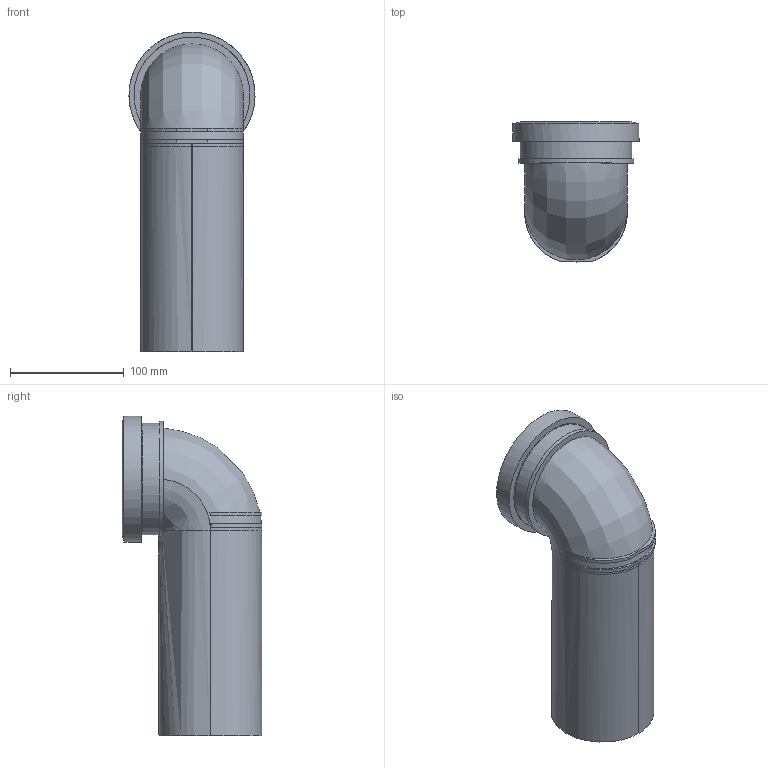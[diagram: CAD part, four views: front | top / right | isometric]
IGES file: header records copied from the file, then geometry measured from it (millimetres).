
Global section: file name: 366925; native system: Autodesk Inventor 2018; preprocessor: unknown; author: JANAN; date: 20190509.133710; units: millimetre
Bounding box: 110.98 x 122.98 x 281.47 mm (x, y, z)
Volume: 306722.7 mm3; surface area: 170948.8 mm2
Topology: 1 solids, 1 shells, 51 faces, 139 edges, 94 vertices
Faces by surface type: bspline 51
